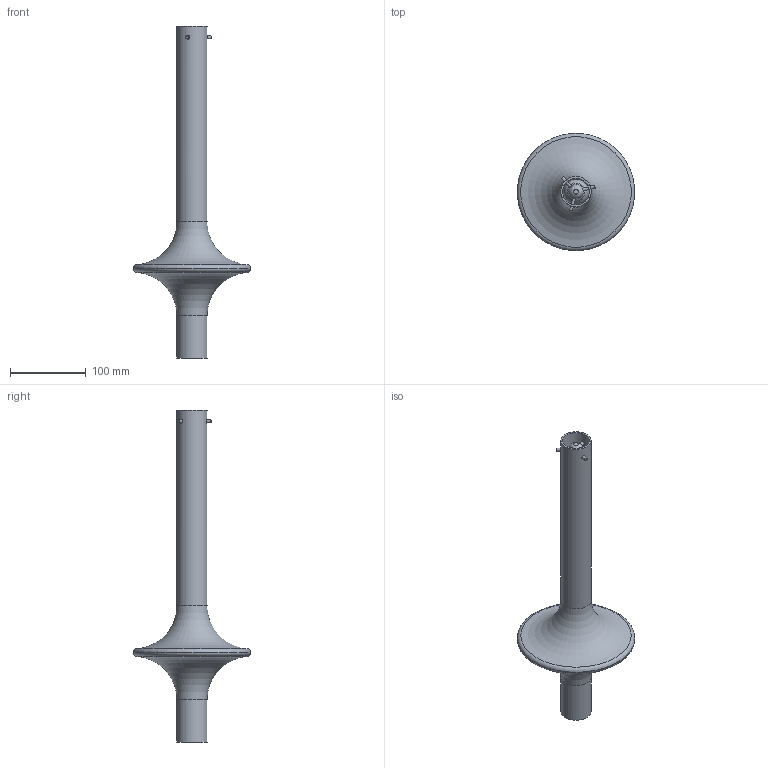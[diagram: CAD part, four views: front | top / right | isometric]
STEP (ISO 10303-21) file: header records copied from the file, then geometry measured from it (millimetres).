
FILE_DESCRIPTION(/* description */ (''),/* implementation_level */ '2;1');
FILE_NAME(/* name */ 'C:\Users\STEFANO\Desktop\3D SEM\1504-20 - WONDER SOSPENSIONE MINI F.E\SEM.000030.stp',/* time_stamp */ '2019-09-16T10:36:18+02:00',/* author */ ('STEFANO'),/* organization */ (''),/* preprocessor_version */ 'ST-DEVELOPER v17',/* originating_system */ 'Autodesk Inventor 2019',/* authorisation */ '');
FILE_SCHEMA (('AUTOMOTIVE_DESIGN { 1 0 10303 214 3 1 1 }'));
Length unit declared in the file: millimetre
Products named in the file (7): SEM.000027; 16492_048.01; 16492_050.01; 16492_047.02; 16492_049.02; Parte105; MINI 40
Assembly tree (8 placements, depth 2):
  SEM.000027
    16492_048.01
    16492_050.01
    16492_047.02
    16492_049.02
    Parte105  x3
    MINI 40
Bounding box: 154.41 x 154.41 x 438 mm (x, y, z)
Volume: 242301.7 mm3; surface area: 185614.6 mm2
Topology: 8 solids, 9 shells, 64 faces, 154 edges, 109 vertices
Faces by surface type: cylinder 26, plane 20, torus 10, cone 6, sphere 2
Full cylindrical faces by diameter (mm): 3.3 x3, 4 x3, 4.5 x3, 5 x3, 10 x1, 10.036 x1, 23.6 x1, 35.4 x2, 40 x2, 150.4 x1, 155 x1
Entity records: 2381 total; most frequent: CARTESIAN_POINT 648, DIRECTION 360, ORIENTED_EDGE 288, AXIS2_PLACEMENT_3D 166, EDGE_CURVE 144, VERTEX_POINT 105, CIRCLE 90, EDGE_LOOP 71
